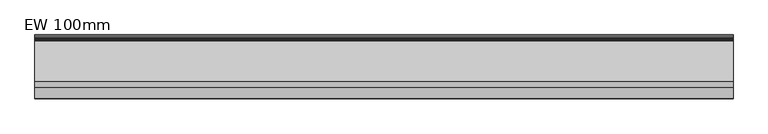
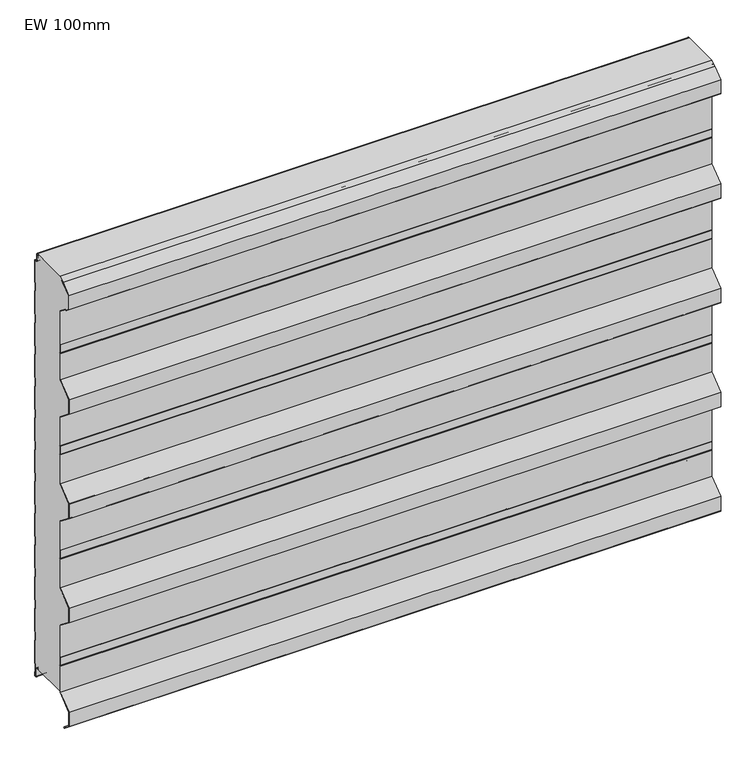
"""IFC4 building model written with IfcOpenShell, lengths in millimetres: plate geometry, KIP-MEX-KC-R19-CP-EW-SL : EW 100mm."""

from ifc_helpers import new_model, si_unit, point, frame, frame_2d, origin, place, context, project, spatial, polyline, circle_curve, trimmed, segment, composite_curve, outline, extrude, source, transform, mapped, element, save
from ifc_brep_helpers import plane_surface, cylinder_surface, revolved_surface, advanced_brep


def ew_100mm_d977de08(model_context):
    return source(origin(), model_context, "Body", "SolidModel", [
        advanced_brep(
        [(-740.0, -110.0327477, 989.051258), (-740.0, -105.6292245, 991.4166419), (-740.0, -106.1011177, 992.2982989), (-740.0, -110.5823669, 989.8911639), (-740.0, -99.7971296, 998.3652789), (-740.0, -11.2514375, 998.3666923), (-740.0, -13.6351997, 996.0840542), (-740.0, -14.1562355, 990.2938452), (-740.0, -13.178913, 990.2059002), (-740.0, -12.6629632, 995.9395891), (-740.0, -10.8760369, 997.3642752), (-740.0, -8.8936988, 995.9342793), (-740.0, -7.4885937, 979.8720443), (-740.0, -4.5000049, 977.1334803), (-740.0, -1.0, 977.1334803), (-740.0, -1.0, 924.1786391), (-740.0, -2.2002307, 922.7930062), (-740.0, -2.2002307, 903.4178399), (-740.0, -1.0, 902.0322069), (-740.0, -1.0, 847.9787915), (-740.0, -2.2002307, 846.5931586), (-740.0, -2.2002307, 827.2179923), (-740.0, -1.0, 825.8323593), (-740.0, -1.0, 771.7789439), (-740.0, -2.2002307, 770.393311), (-740.0, -2.2002307, 751.0181447), (-740.0, -1.0, 749.6325117), (-740.0, -1.0, 695.5790963), (-740.0, -2.2002307, 694.1934634), (-740.0, -2.2002307, 674.8182971), (-740.0, -1.0, 673.4326641), (-740.0, -1.0, 619.3792487), (-740.0, -2.2002307, 617.9936158), (-740.0, -2.2002307, 598.6184495), (-740.0, -1.0, 597.2328165), (-740.0, -1.0, 543.1794011), (-740.0, -2.2002307, 541.7937682), (-740.0, -2.2002307, 522.4186019), (-740.0, -1.0, 521.0329689), (-740.0, -1.0, 466.9795535), (-740.0, -2.2002307, 465.5939206), (-740.0, -2.2002307, 446.2187543), (-740.0, -1.0, 444.8331213), (-740.0, -1.0, 390.7797059), (-740.0, -2.2002307, 389.394073), (-740.0, -2.2002307, 370.0189067), (-740.0, -1.0, 368.6332737), (-740.0, -1.0, 314.5798583), (-740.0, -2.2002307, 313.1942254), (-740.0, -2.2002307, 293.8190591), (-740.0, -1.0, 292.4334261), (-740.0, -1.0, 238.3800107), (-740.0, -2.2002307, 236.9943778), (-740.0, -2.2002307, 217.6192115), (-740.0, -1.0, 216.2335785), (-740.0, -1.0, 162.1801631), (-740.0, -2.2002307, 160.7945302), (-740.0, -2.2002307, 141.4193639), (-740.0, -1.0, 140.0337309), (-740.0, -1.0, 85.9803155), (-740.0, -2.2002307, 84.5946826), (-740.0, -2.2002307, 65.2195163), (-740.0, -1.0, 63.8338833), (-740.0, -1.0, 9.7804679), (-740.0, -2.2002307, 8.394835), (-740.0, -2.2002307, -10.9803313), (-740.0, -0.9999916, -12.365974), (-740.0, -0.9999916, -20.8675386), (-740.0, -2.4999198, -20.8675386), (-740.0, -4.9998241, -18.3676343), (-740.0, -4.9998241, -0.3670493), (-740.0, -7.998082, 2.6333088), (-740.0, -11.5943952, 2.6333088), (-740.0, -13.0725686, 3.8746028), (-740.0, -13.6943971, 7.4169376), (-740.0, -14.6793372, 7.2440392), (-740.0, -14.0575086, 3.7017037), (-740.0, -11.5958694, 1.6333077), (-740.0, -99.0, 1.6333077), (-740.0, -99.0, 62.1559418), (-740.0, -97.9999989, 63.5702249), (-740.0, -97.9999989, 82.7777465), (-740.0, -99.0, 84.1920296), (-740.0, -99.0, 160.6910066), (-740.0, -134.000038, 188.1910365), (-740.0, -134.000038, 222.2190039), (-740.0, -99.0, 249.7190337), (-740.0, -99.0, 319.1871119), (-740.0, -97.9999989, 320.601395), (-740.0, -97.9999989, 339.8089167), (-740.0, -99.0, 341.2231997), (-740.0, -99.0, 410.6912779), (-740.0, -134.000038, 438.1913078), (-740.0, -134.000038, 472.2192752), (-740.0, -99.0, 499.719305), (-740.0, -99.0, 569.1090864), (-740.0, -97.9999989, 570.1732653), (-740.0, -97.9999989, 589.809188), (-740.0, -99.0, 591.2234711), (-740.0, -99.0, 660.6915492), (-740.0, -134.000038, 688.1915791), (-740.0, -134.000038, 722.2195465), (-740.0, -99.0, 749.7195763), (-740.0, -99.0, 812.1567557), (-740.0, -97.9999989, 813.5710388), (-740.0, -97.9999989, 832.7785605), (-740.0, -99.0, 834.1928435), (-740.0, -99.0, 914.6918249), (-740.0, -119.3814311, 930.7058064), (-740.0, -123.199617, 930.7058064), (-740.0, -133.0000369, 938.4061363), (-740.0, -133.0000369, 971.0055308), (740.0, -110.0327477, 989.051258), (740.0, -133.0000369, 971.0055308), (740.0, -133.0000369, 938.4061363), (740.0, -123.199617, 930.7058064), (740.0, -119.3814311, 930.7058064), (740.0, -99.0, 914.6918249), (740.0, -99.0, 834.1928435), (740.0, -97.9999989, 832.7785605), (740.0, -97.9999989, 813.5710388), (740.0, -99.0, 812.1567557), (740.0, -99.0, 749.7195763), (740.0, -134.000038, 722.2195465), (740.0, -134.000038, 688.1915791), (740.0, -99.0, 660.6915492), (740.0, -99.0, 591.2234711), (740.0, -97.9999989, 589.809188), (740.0, -97.9999989, 570.1732653), (740.0, -99.0, 569.1090864), (740.0, -99.0, 499.719305), (740.0, -134.000038, 472.2192752), (740.0, -134.000038, 438.1913078), (740.0, -99.0, 410.6912779), (740.0, -99.0, 341.2231997), (740.0, -97.9999989, 339.8089167), (740.0, -97.9999989, 320.601395), (740.0, -99.0, 319.1871119), (740.0, -99.0, 249.7190337), (740.0, -134.000038, 222.2190039), (740.0, -134.000038, 188.1910365), (740.0, -99.0, 160.6910066), (740.0, -99.0, 84.1920296), (740.0, -97.9999989, 82.7777465), (740.0, -97.9999989, 63.5702249), (740.0, -99.0, 62.1559418), (740.0, -99.0, 1.6333077), (740.0, -11.5958694, 1.6333077), (740.0, -14.0575086, 3.7017037), (740.0, -14.6793372, 7.2440392), (740.0, -13.6943971, 7.4169376), (740.0, -13.0725686, 3.8746028), (740.0, -11.5943952, 2.6333088), (740.0, -7.998082, 2.6333088), (740.0, -4.9998241, -0.3670493), (740.0, -4.9998241, -18.3676343), (740.0, -2.4999198, -20.8675386), (740.0, -0.9999916, -20.8675386), (740.0, -0.9999916, -12.365974), (740.0, -2.2002307, -10.9803313), (740.0, -2.2002307, 8.394835), (740.0, -1.0, 9.7804679), (740.0, -1.0, 63.8338833), (740.0, -2.2002307, 65.2195163), (740.0, -2.2002307, 84.5946826), (740.0, -1.0, 85.9803155), (740.0, -1.0, 140.0337309), (740.0, -2.2002307, 141.4193639), (740.0, -2.2002307, 160.7945302), (740.0, -1.0, 162.1801631), (740.0, -1.0, 216.2335785), (740.0, -2.2002307, 217.6192115), (740.0, -2.2002307, 236.9943778), (740.0, -1.0, 238.3800107), (740.0, -1.0, 292.4334261), (740.0, -2.2002307, 293.8190591), (740.0, -2.2002307, 313.1942254), (740.0, -1.0, 314.5798583), (740.0, -1.0, 368.6332737), (740.0, -2.2002307, 370.0189067), (740.0, -2.2002307, 389.394073), (740.0, -1.0, 390.7797059), (740.0, -1.0, 444.8331213), (740.0, -2.2002307, 446.2187543), (740.0, -2.2002307, 465.5939206), (740.0, -1.0, 466.9795535), (740.0, -1.0, 521.0329689), (740.0, -2.2002307, 522.4186019), (740.0, -2.2002307, 541.7937682), (740.0, -1.0, 543.1794011), (740.0, -1.0, 597.2328165), (740.0, -2.2002307, 598.6184495), (740.0, -2.2002307, 617.9936158), (740.0, -1.0, 619.3792487), (740.0, -1.0, 673.4326641), (740.0, -2.2002307, 674.8182971), (740.0, -2.2002307, 694.1934634), (740.0, -1.0, 695.5790963), (740.0, -1.0, 749.6325117), (740.0, -2.2002307, 751.0181447), (740.0, -2.2002307, 770.393311), (740.0, -1.0, 771.7789439), (740.0, -1.0, 825.8323593), (740.0, -2.2002307, 827.2179923), (740.0, -2.2002307, 846.5931586), (740.0, -1.0, 847.9787915), (740.0, -1.0, 902.0322069), (740.0, -2.2002307, 903.4178399), (740.0, -2.2002307, 922.7930062), (740.0, -1.0, 924.1786391), (740.0, -1.0, 977.1334803), (740.0, -4.5000049, 977.1334803), (740.0, -7.4885937, 979.8720443), (740.0, -8.8936988, 995.9342793), (740.0, -10.8760369, 997.3642752), (740.0, -12.6629632, 995.9395891), (740.0, -13.178913, 990.2059002), (740.0, -14.1562355, 990.2938452), (740.0, -13.6351997, 996.0840542), (740.0, -11.2514375, 998.3666923), (740.0, -99.7971296, 998.3652789), (740.0, -110.5823669, 989.8911639), (740.0, -106.1011177, 992.2982989), (740.0, -105.6292245, 991.4166419)],
        [
            (0, 1),
            (1, 2),
            (2, 3),
            (3, 4),
            (4, 5),
            (5, 6, circle_curve(frame((-740.0, -10.8441969, 995.5554081), z_axis=(1.0, 0.0, 0.0), x_axis=(0.0, -1.0, 0.0)), 2.8406273)),
            (6, 7),
            (7, 8),
            (8, 9),
            (9, 10, circle_curve(frame((-740.0, -10.8991179, 995.560247), z_axis=(-1.0, 0.0, 0.0), x_axis=(0.0, -1.0, 0.0)), 1.8041759)),
            (10, 11, circle_curve(frame((-740.0, -10.6928483, 995.5292107), z_axis=(-1.0, 0.0, 0.0), x_axis=(0.0, -1.0, 0.0)), 1.8441854)),
            (11, 12),
            (12, 13, circle_curve(frame((-740.0, -4.5000049, 980.1334825), z_axis=(1.0, 0.0, 0.0), x_axis=(0.0, -1.0, 0.0)), 3.0000022)),
            (13, 14),
            (14, 15),
            (15, 16),
            (16, 17),
            (17, 18),
            (18, 19),
            (19, 20),
            (20, 21),
            (21, 22),
            (22, 23),
            (23, 24),
            (24, 25),
            (25, 26),
            (26, 27),
            (27, 28),
            (28, 29),
            (29, 30),
            (30, 31),
            (31, 32),
            (32, 33),
            (33, 34),
            (34, 35),
            (35, 36),
            (36, 37),
            (37, 38),
            (38, 39),
            (39, 40),
            (40, 41),
            (41, 42),
            (42, 43),
            (43, 44),
            (44, 45),
            (45, 46),
            (46, 47),
            (47, 48),
            (48, 49),
            (49, 50),
            (50, 51),
            (51, 52),
            (52, 53),
            (53, 54),
            (54, 55),
            (55, 56),
            (56, 57),
            (57, 58),
            (58, 59),
            (59, 60),
            (60, 61),
            (61, 62),
            (62, 63),
            (63, 64),
            (64, 65),
            (65, 66),
            (66, 67),
            (67, 68),
            (68, 69, circle_curve(frame((-740.0, -2.4999198, -18.3676343), z_axis=(-1.0, 0.0, 0.0), x_axis=(0.0, -1.0, 0.0)), 2.4999043)),
            (69, 70),
            (70, 71, circle_curve(frame((-740.0, -8.0001829, -0.3670493), z_axis=(1.0, 0.0, 0.0), x_axis=(0.0, -1.0, 0.0)), 3.0003589)),
            (71, 72),
            (72, 73, circle_curve(frame((-740.0, -11.5943952, 4.1340843), z_axis=(-1.0, 0.0, 0.0), x_axis=(0.0, -1.0, 0.0)), 1.5007755)),
            (73, 74),
            (74, 75),
            (75, 76),
            (76, 77, circle_curve(frame((-740.0, -11.5943948, 4.1340836), z_axis=(1.0, 0.0, 0.0), x_axis=(0.0, -1.0, 0.0)), 2.5007762)),
            (77, 78),
            (78, 79),
            (79, 80),
            (80, 81),
            (81, 82),
            (82, 83),
            (83, 84),
            (84, 85),
            (85, 86),
            (86, 87),
            (87, 88),
            (88, 89),
            (89, 90),
            (90, 91),
            (91, 92),
            (92, 93),
            (93, 94),
            (94, 95),
            (95, 96),
            (96, 97),
            (97, 98),
            (98, 99),
            (99, 100),
            (100, 101),
            (101, 102),
            (102, 103),
            (103, 104),
            (104, 105),
            (105, 106),
            (106, 107),
            (107, 108),
            (108, 109),
            (109, 110),
            (110, 111),
            (111, 0),
            (112, 113),
            (113, 114),
            (114, 115),
            (115, 116),
            (116, 117),
            (117, 118),
            (118, 119),
            (119, 120),
            (120, 121),
            (121, 122),
            (122, 123),
            (123, 124),
            (124, 125),
            (125, 126),
            (126, 127),
            (127, 128),
            (128, 129),
            (129, 130),
            (130, 131),
            (131, 132),
            (132, 133),
            (133, 134),
            (134, 135),
            (135, 136),
            (136, 137),
            (137, 138),
            (138, 139),
            (139, 140),
            (140, 141),
            (141, 142),
            (142, 143),
            (143, 144),
            (144, 145),
            (145, 146),
            (146, 147),
            (147, 148, circle_curve(frame((740.0, -11.5943948, 4.1340836), z_axis=(-1.0, 0.0, 0.0), x_axis=(0.0, -1.0, 0.0)), 2.5007762)),
            (148, 149),
            (149, 150),
            (150, 151),
            (151, 152, circle_curve(frame((740.0, -11.5943952, 4.1340843), z_axis=(1.0, 0.0, 0.0), x_axis=(0.0, -1.0, 0.0)), 1.5007755)),
            (152, 153),
            (153, 154, circle_curve(frame((740.0, -8.0001829, -0.3670493), z_axis=(-1.0, 0.0, 0.0), x_axis=(0.0, -1.0, 0.0)), 3.0003589)),
            (154, 155),
            (155, 156, circle_curve(frame((740.0, -2.4999198, -18.3676343), z_axis=(1.0, 0.0, 0.0), x_axis=(0.0, -1.0, 0.0)), 2.4999043)),
            (156, 157),
            (157, 158),
            (158, 159),
            (159, 160),
            (160, 161),
            (161, 162),
            (162, 163),
            (163, 164),
            (164, 165),
            (165, 166),
            (166, 167),
            (167, 168),
            (168, 169),
            (169, 170),
            (170, 171),
            (171, 172),
            (172, 173),
            (173, 174),
            (174, 175),
            (175, 176),
            (176, 177),
            (177, 178),
            (178, 179),
            (179, 180),
            (180, 181),
            (181, 182),
            (182, 183),
            (183, 184),
            (184, 185),
            (185, 186),
            (186, 187),
            (187, 188),
            (188, 189),
            (189, 190),
            (190, 191),
            (191, 192),
            (192, 193),
            (193, 194),
            (194, 195),
            (195, 196),
            (196, 197),
            (197, 198),
            (198, 199),
            (199, 200),
            (200, 201),
            (201, 202),
            (202, 203),
            (203, 204),
            (204, 205),
            (205, 206),
            (206, 207),
            (207, 208),
            (208, 209),
            (209, 210),
            (210, 211),
            (211, 212, circle_curve(frame((740.0, -4.5000049, 980.1334825), z_axis=(-1.0, 0.0, 0.0), x_axis=(0.0, -1.0, 0.0)), 3.0000022)),
            (212, 213),
            (213, 214, circle_curve(frame((740.0, -10.6928483, 995.5292107), z_axis=(1.0, 0.0, 0.0), x_axis=(0.0, -1.0, 0.0)), 1.8441854)),
            (214, 215, circle_curve(frame((740.0, -10.8991179, 995.560247), z_axis=(1.0, 0.0, 0.0), x_axis=(0.0, -1.0, 0.0)), 1.8041759)),
            (215, 216),
            (216, 217),
            (217, 218),
            (218, 219, circle_curve(frame((740.0, -10.8441969, 995.5554081), z_axis=(-1.0, 0.0, 0.0), x_axis=(0.0, -1.0, 0.0)), 2.8406273)),
            (219, 220),
            (220, 221),
            (221, 222),
            (222, 223),
            (223, 112),
            (0, 112),
            (223, 1),
            (111, 113),
            (110, 114),
            (109, 115),
            (108, 116),
            (107, 117),
            (106, 118),
            (105, 119),
            (104, 120),
            (103, 121),
            (102, 122),
            (101, 123),
            (100, 124),
            (99, 125),
            (98, 126),
            (97, 127),
            (96, 128),
            (95, 129),
            (94, 130),
            (93, 131),
            (92, 132),
            (91, 133),
            (90, 134),
            (89, 135),
            (88, 136),
            (87, 137),
            (86, 138),
            (85, 139),
            (84, 140),
            (83, 141),
            (82, 142),
            (81, 143),
            (80, 144),
            (79, 145),
            (78, 146),
            (2, 222),
            (221, 3),
            (220, 4),
            (219, 5),
            (77, 147),
            (73, 151),
            (150, 74),
            (72, 152),
            (71, 153),
            (70, 154),
            (69, 155),
            (68, 156),
            (67, 157),
            (13, 211),
            (210, 14),
            (12, 212),
            (11, 213),
            (10, 214),
            (9, 215),
            (8, 216),
            (7, 217),
            (6, 218),
            (76, 148),
            (75, 149),
            (66, 158),
            (65, 159),
            (64, 160),
            (63, 161),
            (62, 162),
            (61, 163),
            (60, 164),
            (59, 165),
            (58, 166),
            (57, 167),
            (56, 168),
            (55, 169),
            (54, 170),
            (53, 171),
            (52, 172),
            (51, 173),
            (50, 174),
            (49, 175),
            (48, 176),
            (47, 177),
            (46, 178),
            (45, 179),
            (44, 180),
            (43, 181),
            (42, 182),
            (41, 183),
            (40, 184),
            (39, 185),
            (38, 186),
            (37, 187),
            (36, 188),
            (35, 189),
            (34, 190),
            (33, 191),
            (32, 192),
            (31, 193),
            (30, 194),
            (29, 195),
            (28, 196),
            (27, 197),
            (26, 198),
            (25, 199),
            (24, 200),
            (23, 201),
            (22, 202),
            (21, 203),
            (20, 204),
            (19, 205),
            (18, 206),
            (17, 207),
            (16, 208),
            (15, 209),
        ],
        [
            plane_surface(frame((-740.0, -99.0, 500.0), z_axis=(-1.0, 0.0, 0.0), x_axis=(0.0, -1.0, 0.0))),
            plane_surface(frame((740.0, -99.0, 500.0), z_axis=(1.0, 0.0, 0.0), x_axis=(0.0, -1.0, 0.0))),
            plane_surface(frame((-740.0, -105.6292245, 991.4166419), z_axis=(0.0, -0.4732087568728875, 0.8809503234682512), x_axis=(1.0, 0.0, 0.0))),
            plane_surface(frame((-740.0, -110.0327477, 989.051258), z_axis=(0.0, -0.6178215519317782, 0.7863183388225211), x_axis=(1.0, 0.0, 0.0))),
            plane_surface(frame((-740.0, -133.0000369, 971.0055308), z_axis=(0.0, -1.0, 0.0), x_axis=(1.0, 0.0, 0.0))),
            plane_surface(frame((-740.0, -133.0000369, 938.4061363), z_axis=(0.0, -0.6178215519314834, -0.7863183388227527), x_axis=(1.0, 0.0, 0.0))),
            plane_surface(frame((-740.0, -123.199617, 930.7058064), z_axis=(0.0, 0.0, -1.0), x_axis=(1.0, 0.0, 0.0))),
            plane_surface(frame((-740.0, -119.3814311, 930.7058064), z_axis=(0.0, -0.6178215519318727, -0.786318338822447), x_axis=(1.0, 0.0, 0.0))),
            plane_surface(frame((-740.0, -99.0, 914.6918249), z_axis=(0.0, -1.0, 0.0), x_axis=(1.0, 0.0, 0.0))),
            plane_surface(frame((-740.0, -99.0, 834.1928435), z_axis=(0.0, -0.8165096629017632, -0.577331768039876), x_axis=(1.0, 0.0, 0.0))),
            plane_surface(frame((-740.0, -97.9999989, 832.7785605), z_axis=(0.0, -1.0, 0.0), x_axis=(1.0, 0.0, 0.0))),
            plane_surface(frame((-740.0, -97.9999989, 813.5710388), z_axis=(0.0, -0.816509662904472, 0.5773317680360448), x_axis=(1.0, 0.0, 0.0))),
            plane_surface(frame((-740.0, -99.0, 812.1567557), z_axis=(0.0, -1.0, 0.0), x_axis=(1.0, 0.0, 0.0))),
            plane_surface(frame((-740.0, -99.0, 749.7195763), z_axis=(0.0, -0.6178215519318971, 0.7863183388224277), x_axis=(1.0, 0.0, 0.0))),
            plane_surface(frame((-740.0, -134.000038, 722.2195465), z_axis=(0.0, -1.0, 0.0), x_axis=(1.0, 0.0, 0.0))),
            plane_surface(frame((-740.0, -134.000038, 688.1915791), z_axis=(0.0, -0.6178215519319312, -0.7863183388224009), x_axis=(1.0, 0.0, 0.0))),
            plane_surface(frame((-740.0, -99.0, 660.6915492), z_axis=(0.0, -1.0, 0.0), x_axis=(1.0, 0.0, 0.0))),
            plane_surface(frame((-740.0, -99.0, 591.2234711), z_axis=(0.0, -0.8165096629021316, -0.577331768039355), x_axis=(1.0, 0.0, 0.0))),
            plane_surface(frame((-740.0, -97.9999989, 589.809188), z_axis=(0.0, -1.0, 0.0), x_axis=(1.0, 0.0, 0.0))),
            plane_surface(frame((-740.0, -97.9999989, 570.1732653), z_axis=(0.0, -0.7287394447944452, 0.6847910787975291), x_axis=(1.0, 0.0, 0.0))),
            plane_surface(frame((-740.0, -99.0, 569.1090864), z_axis=(0.0, -1.0, 0.0), x_axis=(1.0, 0.0, 0.0))),
            plane_surface(frame((-740.0, -99.0, 499.719305), z_axis=(0.0, -0.6178215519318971, 0.7863183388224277), x_axis=(1.0, 0.0, 0.0))),
            plane_surface(frame((-740.0, -134.000038, 472.2192752), z_axis=(0.0, -1.0, 0.0), x_axis=(1.0, 0.0, 0.0))),
            plane_surface(frame((-740.0, -134.000038, 438.1913078), z_axis=(0.0, -0.6178215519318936, -0.7863183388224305), x_axis=(1.0, 0.0, 0.0))),
            plane_surface(frame((-740.0, -99.0, 410.6912779), z_axis=(0.0, -1.0, 0.0), x_axis=(1.0, 0.0, 0.0))),
            plane_surface(frame((-740.0, -99.0, 341.2231997), z_axis=(0.0, -0.8165096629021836, -0.5773317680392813), x_axis=(1.0, 0.0, 0.0))),
            plane_surface(frame((-740.0, -97.9999989, 339.8089167), z_axis=(0.0, -1.0, 0.0), x_axis=(1.0, 0.0, 0.0))),
            plane_surface(frame((-740.0, -97.9999989, 320.601395), z_axis=(0.0, -0.8165096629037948, 0.5773317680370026), x_axis=(1.0, 0.0, 0.0))),
            plane_surface(frame((-740.0, -99.0, 319.1871119), z_axis=(0.0, -1.0, 0.0), x_axis=(1.0, 0.0, 0.0))),
            plane_surface(frame((-740.0, -99.0, 249.7190337), z_axis=(0.0, -0.6178215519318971, 0.7863183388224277), x_axis=(1.0, 0.0, 0.0))),
            plane_surface(frame((-740.0, -134.000038, 222.2190039), z_axis=(0.0, -1.0, 0.0), x_axis=(1.0, 0.0, 0.0))),
            plane_surface(frame((-740.0, -134.000038, 188.1910365), z_axis=(0.0, -0.6178215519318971, -0.7863183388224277), x_axis=(1.0, 0.0, 0.0))),
            plane_surface(frame((-740.0, -99.0, 160.6910066), z_axis=(0.0, -1.0, 0.0), x_axis=(1.0, 0.0, 0.0))),
            plane_surface(frame((-740.0, -99.0, 84.1920296), z_axis=(0.0, -0.8165096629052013, -0.5773317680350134), x_axis=(1.0, 0.0, 0.0))),
            plane_surface(frame((-740.0, -97.9999989, 82.7777465), z_axis=(0.0, -1.0, 0.0), x_axis=(1.0, 0.0, 0.0))),
            plane_surface(frame((-740.0, -97.9999989, 63.5702249), z_axis=(0.0, -0.8165096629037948, 0.5773317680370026), x_axis=(1.0, 0.0, 0.0))),
            plane_surface(frame((-740.0, -99.0, 62.1559418), z_axis=(0.0, -1.0, 0.0), x_axis=(1.0, 0.0, 0.0))),
            plane_surface(frame((-740.0, -110.5823669, 989.8911639), z_axis=(0.0, 0.47320875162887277, -0.8809503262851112), x_axis=(1.0, 0.0, 0.0))),
            plane_surface(frame((-740.0, -106.1011177, 992.2982989), z_axis=(0.0, -0.8816559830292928, -0.47189270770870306), x_axis=(1.0, 0.0, 0.0))),
            plane_surface(frame((-740.0, -99.7971296, 998.3652789), z_axis=(0.0, -0.617821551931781, 0.786318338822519), x_axis=(1.0, 0.0, 0.0))),
            plane_surface(frame((-740.0, -94.8065083, 998.3652789), z_axis=(0.0, 0.0, 1.0), x_axis=(1.0, 0.0, 0.0))),
            plane_surface(frame((-740.0, -99.0, 1.6333077), z_axis=(0.0, 0.0, -1.0), x_axis=(1.0, 0.0, 0.0))),
            plane_surface(frame((-740.0, -13.6943971, 7.4169376), z_axis=(0.0, -0.9849396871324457, -0.17289827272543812), x_axis=(1.0, 0.0, 0.0))),
            cylinder_surface(frame((-740.0, -11.5943952, 4.1340843), z_axis=(-1.0, 0.0, 0.0), x_axis=(0.0, -1.0, 0.0)), 1.5007755),
            plane_surface(frame((-740.0, -11.5943952, 2.6333088), z_axis=(0.0, 0.0, -1.0), x_axis=(1.0, 0.0, 0.0))),
            revolved_surface(polyline([(740.0, -11.0005418, -0.3670493), (-740.0, -11.0005418, -0.3670493)]), (-740.0, -8.0001829, -0.3670493), (1.0, 0.0, 0.0)),
            plane_surface(frame((-740.0, -4.9998241, -0.3670493), z_axis=(0.0, -1.0, 0.0), x_axis=(1.0, 0.0, 0.0))),
            cylinder_surface(frame((-740.0, -2.4999198, -18.3676343), z_axis=(-1.0, 0.0, 0.0), x_axis=(0.0, -1.0, 0.0)), 2.4999043),
            plane_surface(frame((-740.0, -2.4999198, -20.8675386), z_axis=(0.0, 0.0, -1.0), x_axis=(1.0, 0.0, 0.0))),
            plane_surface(frame((-740.0, -1.0, 977.1334803), z_axis=(0.0, 0.0, 1.0), x_axis=(1.0, 0.0, 0.0))),
            revolved_surface(polyline([(740.0, -7.5000071, 980.1334825), (-740.0, -7.5000071, 980.1334825)]), (-740.0, -4.5000049, 980.1334825), (1.0, 0.0, 0.0)),
            plane_surface(frame((-740.0, -7.4885937, 979.8720443), z_axis=(0.0, 0.9961955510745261, 0.08714599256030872), x_axis=(1.0, 0.0, 0.0))),
            cylinder_surface(frame((-740.0, -10.6928483, 995.5292107), z_axis=(-1.0, 0.0, 0.0), x_axis=(0.0, -1.0, 0.0)), 1.8441854),
            cylinder_surface(frame((-740.0, -10.8991179, 995.560247), z_axis=(-1.0, 0.0, 0.0), x_axis=(0.0, -1.0, 0.0)), 1.8041759),
            plane_surface(frame((-740.0, -12.6629632, 995.9395891), z_axis=(0.0, -0.9959757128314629, 0.08962354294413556), x_axis=(1.0, 0.0, 0.0))),
            plane_surface(frame((-740.0, -13.178913, 990.2059002), z_axis=(0.0, 0.0896235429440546, 0.9959757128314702), x_axis=(1.0, 0.0, 0.0))),
            plane_surface(frame((-740.0, -14.1562355, 990.2938452), z_axis=(0.0, 0.9959757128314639, -0.08962354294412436), x_axis=(1.0, 0.0, 0.0))),
            revolved_surface(polyline([(740.0, -13.6848242, 995.5554081), (-740.0, -13.6848242, 995.5554081)]), (-740.0, -10.8441969, 995.5554081), (1.0, 0.0, 0.0)),
            revolved_surface(polyline([(740.0, -14.095171, 4.1340836), (-740.0, -14.095171, 4.1340836)]), (-740.0, -11.5943948, 4.1340836), (1.0, 0.0, 0.0)),
            plane_surface(frame((-740.0, -14.0575086, 3.7017037), z_axis=(0.0, 0.9849396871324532, 0.17289827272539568), x_axis=(1.0, 0.0, 0.0))),
            plane_surface(frame((-740.0, -14.6793372, 7.2440392), z_axis=(0.0, 0.17289827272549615, -0.9849396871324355), x_axis=(1.0, 0.0, 0.0))),
            plane_surface(frame((-740.0, -0.9999916, -20.8675386), z_axis=(0.0, 1.0, 0.0), x_axis=(1.0, 0.0, 0.0))),
            plane_surface(frame((-740.0, -0.9999916, -12.365974), z_axis=(0.0, 0.7558648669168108, 0.6547276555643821), x_axis=(1.0, 0.0, 0.0))),
            plane_surface(frame((-740.0, -2.2002307, -10.9803313), z_axis=(0.0, 1.0, 0.0), x_axis=(1.0, 0.0, 0.0))),
            plane_surface(frame((-740.0, -2.2002307, 8.394835), z_axis=(0.0, 0.7558648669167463, -0.6547276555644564), x_axis=(1.0, 0.0, 0.0))),
            plane_surface(frame((-740.0, -1.0, 9.7804679), z_axis=(0.0, 1.0, 0.0), x_axis=(1.0, 0.0, 0.0))),
            plane_surface(frame((-740.0, -1.0, 63.8338833), z_axis=(0.0, 0.7558648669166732, 0.6547276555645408), x_axis=(1.0, 0.0, 0.0))),
            plane_surface(frame((-740.0, -2.2002307, 65.2195163), z_axis=(0.0, 1.0, 0.0), x_axis=(1.0, 0.0, 0.0))),
            plane_surface(frame((-740.0, -2.2002307, 84.5946826), z_axis=(0.0, 0.7558648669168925, -0.6547276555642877), x_axis=(1.0, 0.0, 0.0))),
            plane_surface(frame((-740.0, -1.0, 85.9803155), z_axis=(0.0, 1.0, 0.0), x_axis=(1.0, 0.0, 0.0))),
            plane_surface(frame((-740.0, -1.0, 140.0337309), z_axis=(0.0, 0.7558648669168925, 0.6547276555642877), x_axis=(1.0, 0.0, 0.0))),
            plane_surface(frame((-740.0, -2.2002307, 141.4193639), z_axis=(0.0, 1.0, 0.0), x_axis=(1.0, 0.0, 0.0))),
            plane_surface(frame((-740.0, -2.2002307, 160.7945302), z_axis=(0.0, 0.7558648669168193, -0.6547276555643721), x_axis=(1.0, 0.0, 0.0))),
            plane_surface(frame((-740.0, -1.0, 162.1801631), z_axis=(0.0, 1.0, 0.0), x_axis=(1.0, 0.0, 0.0))),
            plane_surface(frame((-740.0, -1.0, 216.2335785), z_axis=(0.0, 0.7558648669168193, 0.6547276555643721), x_axis=(1.0, 0.0, 0.0))),
            plane_surface(frame((-740.0, -2.2002307, 217.6192115), z_axis=(0.0, 1.0, 0.0), x_axis=(1.0, 0.0, 0.0))),
            plane_surface(frame((-740.0, -2.2002307, 236.9943778), z_axis=(0.0, 0.7558648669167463, -0.6547276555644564), x_axis=(1.0, 0.0, 0.0))),
            plane_surface(frame((-740.0, -1.0, 238.3800107), z_axis=(0.0, 1.0, 0.0), x_axis=(1.0, 0.0, 0.0))),
            plane_surface(frame((-740.0, -1.0, 292.4334261), z_axis=(0.0, 0.7558648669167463, 0.6547276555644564), x_axis=(1.0, 0.0, 0.0))),
            plane_surface(frame((-740.0, -2.2002307, 293.8190591), z_axis=(0.0, 1.0, 0.0), x_axis=(1.0, 0.0, 0.0))),
            plane_surface(frame((-740.0, -2.2002307, 313.1942254), z_axis=(0.0, 0.7558648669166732, -0.6547276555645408), x_axis=(1.0, 0.0, 0.0))),
            plane_surface(frame((-740.0, -1.0, 314.5798583), z_axis=(0.0, 1.0, 0.0), x_axis=(1.0, 0.0, 0.0))),
            plane_surface(frame((-740.0, -1.0, 368.6332737), z_axis=(0.0, 0.7558648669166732, 0.6547276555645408), x_axis=(1.0, 0.0, 0.0))),
            plane_surface(frame((-740.0, -2.2002307, 370.0189067), z_axis=(0.0, 1.0, 0.0), x_axis=(1.0, 0.0, 0.0))),
            plane_surface(frame((-740.0, -2.2002307, 389.394073), z_axis=(0.0, 0.755864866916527, -0.6547276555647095), x_axis=(1.0, 0.0, 0.0))),
            plane_surface(frame((-740.0, -1.0, 390.7797059), z_axis=(0.0, 1.0, 0.0), x_axis=(1.0, 0.0, 0.0))),
            plane_surface(frame((-740.0, -1.0, 444.8331213), z_axis=(0.0, 0.755864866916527, 0.6547276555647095), x_axis=(1.0, 0.0, 0.0))),
            plane_surface(frame((-740.0, -2.2002307, 446.2187543), z_axis=(0.0, 1.0, 0.0), x_axis=(1.0, 0.0, 0.0))),
            plane_surface(frame((-740.0, -2.2002307, 465.5939206), z_axis=(0.0, 0.755864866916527, -0.6547276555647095), x_axis=(1.0, 0.0, 0.0))),
            plane_surface(frame((-740.0, -1.0, 466.9795535), z_axis=(0.0, 1.0, 0.0), x_axis=(1.0, 0.0, 0.0))),
            plane_surface(frame((-740.0, -1.0, 521.0329689), z_axis=(0.0, 0.755864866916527, 0.6547276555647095), x_axis=(1.0, 0.0, 0.0))),
            plane_surface(frame((-740.0, -2.2002307, 522.4186019), z_axis=(0.0, 1.0, 0.0), x_axis=(1.0, 0.0, 0.0))),
            plane_surface(frame((-740.0, -2.2002307, 541.7937682), z_axis=(0.0, 0.7558648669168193, -0.6547276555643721), x_axis=(1.0, 0.0, 0.0))),
            plane_surface(frame((-740.0, -1.0, 543.1794011), z_axis=(0.0, 1.0, 0.0), x_axis=(1.0, 0.0, 0.0))),
            plane_surface(frame((-740.0, -1.0, 597.2328165), z_axis=(0.0, 0.7558648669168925, 0.6547276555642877), x_axis=(1.0, 0.0, 0.0))),
            plane_surface(frame((-740.0, -2.2002307, 598.6184495), z_axis=(0.0, 1.0, 0.0), x_axis=(1.0, 0.0, 0.0))),
            plane_surface(frame((-740.0, -2.2002307, 617.9936158), z_axis=(0.0, 0.7558648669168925, -0.6547276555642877), x_axis=(1.0, 0.0, 0.0))),
            plane_surface(frame((-740.0, -1.0, 619.3792487), z_axis=(0.0, 1.0, 0.0), x_axis=(1.0, 0.0, 0.0))),
            plane_surface(frame((-740.0, -1.0, 673.4326641), z_axis=(0.0, 0.7558648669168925, 0.6547276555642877), x_axis=(1.0, 0.0, 0.0))),
            plane_surface(frame((-740.0, -2.2002307, 674.8182971), z_axis=(0.0, 1.0, 0.0), x_axis=(1.0, 0.0, 0.0))),
            plane_surface(frame((-740.0, -2.2002307, 694.1934634), z_axis=(0.0, 0.7558648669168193, -0.6547276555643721), x_axis=(1.0, 0.0, 0.0))),
            plane_surface(frame((-740.0, -1.0, 695.5790963), z_axis=(0.0, 1.0, 0.0), x_axis=(1.0, 0.0, 0.0))),
            plane_surface(frame((-740.0, -1.0, 749.6325117), z_axis=(0.0, 0.7558648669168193, 0.6547276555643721), x_axis=(1.0, 0.0, 0.0))),
            plane_surface(frame((-740.0, -2.2002307, 751.0181447), z_axis=(0.0, 1.0, 0.0), x_axis=(1.0, 0.0, 0.0))),
            plane_surface(frame((-740.0, -2.2002307, 770.393311), z_axis=(0.0, 0.7558648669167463, -0.6547276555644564), x_axis=(1.0, 0.0, 0.0))),
            plane_surface(frame((-740.0, -1.0, 771.7789439), z_axis=(0.0, 1.0, 0.0), x_axis=(1.0, 0.0, 0.0))),
            plane_surface(frame((-740.0, -1.0, 825.8323593), z_axis=(0.0, 0.7558648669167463, 0.6547276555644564), x_axis=(1.0, 0.0, 0.0))),
            plane_surface(frame((-740.0, -2.2002307, 827.2179923), z_axis=(0.0, 1.0, 0.0), x_axis=(1.0, 0.0, 0.0))),
            plane_surface(frame((-740.0, -2.2002307, 846.5931586), z_axis=(0.0, 0.7558648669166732, -0.6547276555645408), x_axis=(1.0, 0.0, 0.0))),
            plane_surface(frame((-740.0, -1.0, 847.9787915), z_axis=(0.0, 1.0, 0.0), x_axis=(1.0, 0.0, 0.0))),
            plane_surface(frame((-740.0, -1.0, 902.0322069), z_axis=(0.0, 0.7558648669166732, 0.6547276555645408), x_axis=(1.0, 0.0, 0.0))),
            plane_surface(frame((-740.0, -2.2002307, 903.4178399), z_axis=(0.0, 1.0, 0.0), x_axis=(1.0, 0.0, 0.0))),
            plane_surface(frame((-740.0, -2.2002307, 922.7930062), z_axis=(0.0, 0.7558648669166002, -0.6547276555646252), x_axis=(1.0, 0.0, 0.0))),
            plane_surface(frame((-740.0, -1.0, 924.1786391), z_axis=(0.0, 1.0, 0.0), x_axis=(1.0, 0.0, 0.0))),
        ],
        [
            (0, [[1, 2, 3, 4, 5, 6, 7, 8, 9, 10, 11, 12, 13, 14, 15, 16, 17, 18, 19, 20, 21, 22, 23, 24, 25, 26, 27, 28, 29, 30, 31, 32, 33, 34, 35, 36, 37, 38, 39, 40, 41, 42, 43, 44, 45, 46, 47, 48, 49, 50, 51, 52, 53, 54, 55, 56, 57, 58, 59, 60, 61, 62, 63, 64, 65, 66, 67, 68, 69, 70, 71, 72, 73, 74, 75, 76, 77, 78, 79, 80, 81, 82, 83, 84, 85, 86, 87, 88, 89, 90, 91, 92, 93, 94, 95, 96, 97, 98, 99, 100, 101, 102, 103, 104, 105, 106, 107, 108, 109, 110, 111, 112]]),
            (1, [[113, 114, 115, 116, 117, 118, 119, 120, 121, 122, 123, 124, 125, 126, 127, 128, 129, 130, 131, 132, 133, 134, 135, 136, 137, 138, 139, 140, 141, 142, 143, 144, 145, 146, 147, 148, 149, 150, 151, 152, 153, 154, 155, 156, 157, 158, 159, 160, 161, 162, 163, 164, 165, 166, 167, 168, 169, 170, 171, 172, 173, 174, 175, 176, 177, 178, 179, 180, 181, 182, 183, 184, 185, 186, 187, 188, 189, 190, 191, 192, 193, 194, 195, 196, 197, 198, 199, 200, 201, 202, 203, 204, 205, 206, 207, 208, 209, 210, 211, 212, 213, 214, 215, 216, 217, 218, 219, 220, 221, 222, 223, 224]]),
            (2, [[225, -224, 226, -1]]),
            (3, [[227, -113, -225, -112]]),
            (4, [[228, -114, -227, -111]]),
            (5, [[229, -115, -228, -110]]),
            (6, [[230, -116, -229, -109]]),
            (7, [[231, -117, -230, -108]]),
            (8, [[232, -118, -231, -107]]),
            (9, [[233, -119, -232, -106]]),
            (10, [[234, -120, -233, -105]]),
            (11, [[235, -121, -234, -104]]),
            (12, [[236, -122, -235, -103]]),
            (13, [[237, -123, -236, -102]]),
            (14, [[238, -124, -237, -101]]),
            (15, [[239, -125, -238, -100]]),
            (16, [[240, -126, -239, -99]]),
            (17, [[241, -127, -240, -98]]),
            (18, [[242, -128, -241, -97]]),
            (19, [[243, -129, -242, -96]]),
            (20, [[244, -130, -243, -95]]),
            (21, [[245, -131, -244, -94]]),
            (22, [[246, -132, -245, -93]]),
            (23, [[247, -133, -246, -92]]),
            (24, [[248, -134, -247, -91]]),
            (25, [[249, -135, -248, -90]]),
            (26, [[250, -136, -249, -89]]),
            (27, [[251, -137, -250, -88]]),
            (28, [[252, -138, -251, -87]]),
            (29, [[253, -139, -252, -86]]),
            (30, [[254, -140, -253, -85]]),
            (31, [[255, -141, -254, -84]]),
            (32, [[256, -142, -255, -83]]),
            (33, [[257, -143, -256, -82]]),
            (34, [[258, -144, -257, -81]]),
            (35, [[259, -145, -258, -80]]),
            (36, [[260, -146, -259, -79]]),
            (37, [[261, -222, 262, -3]]),
            (38, [[-226, -223, -261, -2]]),
            (39, [[-262, -221, 263, -4]]),
            (40, [[-263, -220, 264, -5]]),
            (41, [[265, -147, -260, -78]]),
            (42, [[266, -151, 267, -74]]),
            (43, [[268, -152, -266, -73]]),
            (44, [[269, -153, -268, -72]]),
            (45, [[270, -154, -269, -71]]),
            (46, [[271, -155, -270, -70]]),
            (47, [[272, -156, -271, -69]]),
            (48, [[273, -157, -272, -68]]),
            (49, [[274, -211, 275, -14]]),
            (50, [[276, -212, -274, -13]]),
            (51, [[277, -213, -276, -12]]),
            (52, [[278, -214, -277, -11]]),
            (53, [[279, -215, -278, -10]]),
            (54, [[280, -216, -279, -9]]),
            (55, [[281, -217, -280, -8]]),
            (56, [[282, -218, -281, -7]]),
            (57, [[-264, -219, -282, -6]]),
            (58, [[283, -148, -265, -77]]),
            (59, [[284, -149, -283, -76]]),
            (60, [[-267, -150, -284, -75]]),
            (61, [[285, -158, -273, -67]]),
            (62, [[286, -159, -285, -66]]),
            (63, [[287, -160, -286, -65]]),
            (64, [[288, -161, -287, -64]]),
            (65, [[289, -162, -288, -63]]),
            (66, [[290, -163, -289, -62]]),
            (67, [[291, -164, -290, -61]]),
            (68, [[292, -165, -291, -60]]),
            (69, [[293, -166, -292, -59]]),
            (70, [[294, -167, -293, -58]]),
            (71, [[295, -168, -294, -57]]),
            (72, [[296, -169, -295, -56]]),
            (73, [[297, -170, -296, -55]]),
            (74, [[298, -171, -297, -54]]),
            (75, [[299, -172, -298, -53]]),
            (76, [[300, -173, -299, -52]]),
            (77, [[301, -174, -300, -51]]),
            (78, [[302, -175, -301, -50]]),
            (79, [[303, -176, -302, -49]]),
            (80, [[304, -177, -303, -48]]),
            (81, [[305, -178, -304, -47]]),
            (82, [[306, -179, -305, -46]]),
            (83, [[307, -180, -306, -45]]),
            (84, [[308, -181, -307, -44]]),
            (85, [[309, -182, -308, -43]]),
            (86, [[310, -183, -309, -42]]),
            (87, [[311, -184, -310, -41]]),
            (88, [[312, -185, -311, -40]]),
            (89, [[313, -186, -312, -39]]),
            (90, [[314, -187, -313, -38]]),
            (91, [[315, -188, -314, -37]]),
            (92, [[316, -189, -315, -36]]),
            (93, [[317, -190, -316, -35]]),
            (94, [[318, -191, -317, -34]]),
            (95, [[319, -192, -318, -33]]),
            (96, [[320, -193, -319, -32]]),
            (97, [[321, -194, -320, -31]]),
            (98, [[322, -195, -321, -30]]),
            (99, [[323, -196, -322, -29]]),
            (100, [[324, -197, -323, -28]]),
            (101, [[325, -198, -324, -27]]),
            (102, [[326, -199, -325, -26]]),
            (103, [[327, -200, -326, -25]]),
            (104, [[328, -201, -327, -24]]),
            (105, [[329, -202, -328, -23]]),
            (106, [[330, -203, -329, -22]]),
            (107, [[331, -204, -330, -21]]),
            (108, [[332, -205, -331, -20]]),
            (109, [[333, -206, -332, -19]]),
            (110, [[334, -207, -333, -18]]),
            (111, [[335, -208, -334, -17]]),
            (112, [[336, -209, -335, -16]]),
            (113, [[-275, -210, -336, -15]]),
        ],
    ),
        extrude(outline(composite_curve([segment(trimmed(circle_curve(frame_2d((-1.4999961, 976.6334814)), 1.4999961), [point((-1.4999961, 978.1334775))], [point((0.0, 976.6334814))], False, "CARTESIAN"), True, "CONTINUOUS"), segment(polyline([(0.0, 976.6334814), (0.0, 924.3277902)]), True, "CONTINUOUS"), segment(trimmed(circle_curve(frame_2d((-1.3999972, 924.3277902)), 1.3999972), [point((0.0, 924.3277902))], [point((-0.3417885, 923.4111733))], False, "CARTESIAN"), True, "CONTINUOUS"), segment(polyline([(-0.3417885, 923.4111733), (-1.2002307, 922.4201257), (-1.2002307, 903.7907203), (-0.3417885, 902.7996726)]), True, "CONTINUOUS"), segment(trimmed(circle_curve(frame_2d((-1.3999972, 901.8830557)), 1.3999972), [point((-0.3417885, 902.7996726))], [point((0.0, 901.8830557))], False, "CARTESIAN"), True, "CONTINUOUS"), segment(polyline([(0.0, 901.8830557), (0.0, 848.1279426)]), True, "CONTINUOUS"), segment(trimmed(circle_curve(frame_2d((-1.3999972, 848.1279426)), 1.3999972), [point((0.0, 848.1279426))], [point((-0.3417885, 847.2113257))], False, "CARTESIAN"), True, "CONTINUOUS"), segment(polyline([(-0.3417885, 847.2113257), (-1.2002307, 846.2202781), (-1.2002307, 827.5908727), (-0.3417885, 826.599825)]), True, "CONTINUOUS"), segment(trimmed(circle_curve(frame_2d((-1.3999972, 825.6832081)), 1.3999972), [point((-0.3417885, 826.599825))], [point((0.0, 825.6832081))], False, "CARTESIAN"), True, "CONTINUOUS"), segment(polyline([(0.0, 825.6832081), (0.0, 771.928095)]), True, "CONTINUOUS"), segment(trimmed(circle_curve(frame_2d((-1.3999972, 771.928095)), 1.3999972), [point((0.0, 771.928095))], [point((-0.3417885, 771.0114781))], False, "CARTESIAN"), True, "CONTINUOUS"), segment(polyline([(-0.3417885, 771.0114781), (-1.2002307, 770.0204305), (-1.2002307, 751.3910251), (-0.3417885, 750.3999774)]), True, "CONTINUOUS"), segment(trimmed(circle_curve(frame_2d((-1.3999972, 749.4833605)), 1.3999972), [point((-0.3417885, 750.3999774))], [point((0.0, 749.4833605))], False, "CARTESIAN"), True, "CONTINUOUS"), segment(polyline([(0.0, 749.4833605), (0.0, 695.7282474)]), True, "CONTINUOUS"), segment(trimmed(circle_curve(frame_2d((-1.3999972, 695.7282474)), 1.3999972), [point((0.0, 695.7282474))], [point((-0.3417885, 694.8116305))], False, "CARTESIAN"), True, "CONTINUOUS"), segment(polyline([(-0.3417885, 694.8116305), (-1.2002307, 693.8205829), (-1.2002307, 675.1911775), (-0.3417885, 674.2001298)]), True, "CONTINUOUS"), segment(trimmed(circle_curve(frame_2d((-1.3999972, 673.2835129)), 1.3999972), [point((-0.3417885, 674.2001298))], [point((0.0, 673.2835129))], False, "CARTESIAN"), True, "CONTINUOUS"), segment(polyline([(0.0, 673.2835129), (0.0, 619.5283998)]), True, "CONTINUOUS"), segment(trimmed(circle_curve(frame_2d((-1.3999972, 619.5283998)), 1.3999972), [point((0.0, 619.5283998))], [point((-0.3417885, 618.6117829))], False, "CARTESIAN"), True, "CONTINUOUS"), segment(polyline([(-0.3417885, 618.6117829), (-1.2002307, 617.6207353), (-1.2002307, 598.9913299), (-0.3417885, 598.0002822)]), True, "CONTINUOUS"), segment(trimmed(circle_curve(frame_2d((-1.3999972, 597.0836653)), 1.3999972), [point((-0.3417885, 598.0002822))], [point((0.0, 597.0836653))], False, "CARTESIAN"), True, "CONTINUOUS"), segment(polyline([(0.0, 597.0836653), (0.0, 543.3285522)]), True, "CONTINUOUS"), segment(trimmed(circle_curve(frame_2d((-1.3999972, 543.3285522)), 1.3999972), [point((0.0, 543.3285522))], [point((-0.3417885, 542.4119353))], False, "CARTESIAN"), True, "CONTINUOUS"), segment(polyline([(-0.3417885, 542.4119353), (-1.2002307, 541.4208877), (-1.2002307, 522.7914823), (-0.3417885, 521.8004346)]), True, "CONTINUOUS"), segment(trimmed(circle_curve(frame_2d((-1.3999972, 520.8838177)), 1.3999972), [point((-0.3417885, 521.8004346))], [point((0.0, 520.8838177))], False, "CARTESIAN"), True, "CONTINUOUS"), segment(polyline([(0.0, 520.8838177), (0.0, 467.1287046)]), True, "CONTINUOUS"), segment(trimmed(circle_curve(frame_2d((-1.3999972, 467.1287046)), 1.3999972), [point((0.0, 467.1287046))], [point((-0.3417885, 466.2120877))], False, "CARTESIAN"), True, "CONTINUOUS"), segment(polyline([(-0.3417885, 466.2120877), (-1.2002307, 465.2210401), (-1.2002307, 446.5916347), (-0.3417885, 445.600587)]), True, "CONTINUOUS"), segment(trimmed(circle_curve(frame_2d((-1.3999972, 444.6839701)), 1.3999972), [point((-0.3417885, 445.600587))], [point((0.0, 444.6839701))], False, "CARTESIAN"), True, "CONTINUOUS"), segment(polyline([(0.0, 444.6839701), (0.0, 390.928857)]), True, "CONTINUOUS"), segment(trimmed(circle_curve(frame_2d((-1.3999972, 390.928857)), 1.3999972), [point((0.0, 390.928857))], [point((-0.3417885, 390.0122401))], False, "CARTESIAN"), True, "CONTINUOUS"), segment(polyline([(-0.3417885, 390.0122401), (-1.2002307, 389.0211925), (-1.2002307, 370.3917871), (-0.3417885, 369.4007394)]), True, "CONTINUOUS"), segment(trimmed(circle_curve(frame_2d((-1.3999972, 368.4841225)), 1.3999972), [point((-0.3417885, 369.4007394))], [point((0.0, 368.4841225))], False, "CARTESIAN"), True, "CONTINUOUS"), segment(polyline([(0.0, 368.4841225), (0.0, 314.7290094)]), True, "CONTINUOUS"), segment(trimmed(circle_curve(frame_2d((-1.3999972, 314.7290094)), 1.3999972), [point((0.0, 314.7290094))], [point((-0.3417885, 313.8123925))], False, "CARTESIAN"), True, "CONTINUOUS"), segment(polyline([(-0.3417885, 313.8123925), (-1.2002307, 312.8213449), (-1.2002307, 294.1919395), (-0.3417885, 293.2008918)]), True, "CONTINUOUS"), segment(trimmed(circle_curve(frame_2d((-1.3999972, 292.2842749)), 1.3999972), [point((-0.3417885, 293.2008918))], [point((0.0, 292.2842749))], False, "CARTESIAN"), True, "CONTINUOUS"), segment(polyline([(0.0, 292.2842749), (0.0, 238.5291618)]), True, "CONTINUOUS"), segment(trimmed(circle_curve(frame_2d((-1.3999972, 238.5291618)), 1.3999972), [point((0.0, 238.5291618))], [point((-0.3417885, 237.6125449))], False, "CARTESIAN"), True, "CONTINUOUS"), segment(polyline([(-0.3417885, 237.6125449), (-1.2002307, 236.6214973), (-1.2002307, 217.9920919), (-0.3417885, 217.0010442)]), True, "CONTINUOUS"), segment(trimmed(circle_curve(frame_2d((-1.3999972, 216.0844273)), 1.3999972), [point((-0.3417885, 217.0010442))], [point((0.0, 216.0844273))], False, "CARTESIAN"), True, "CONTINUOUS"), segment(polyline([(0.0, 216.0844273), (0.0, 162.3293142)]), True, "CONTINUOUS"), segment(trimmed(circle_curve(frame_2d((-1.3999972, 162.3293142)), 1.3999972), [point((0.0, 162.3293142))], [point((-0.3417885, 161.4126973))], False, "CARTESIAN"), True, "CONTINUOUS"), segment(polyline([(-0.3417885, 161.4126973), (-1.2002307, 160.4216497), (-1.2002307, 141.7922443), (-0.3417885, 140.8011966)]), True, "CONTINUOUS"), segment(trimmed(circle_curve(frame_2d((-1.3999972, 139.8845797)), 1.3999972), [point((-0.3417885, 140.8011966))], [point((0.0, 139.8845797))], False, "CARTESIAN"), True, "CONTINUOUS"), segment(polyline([(0.0, 139.8845797), (0.0, 86.1294666)]), True, "CONTINUOUS"), segment(trimmed(circle_curve(frame_2d((-1.3999972, 86.1294666)), 1.3999972), [point((0.0, 86.1294666))], [point((-0.3417885, 85.2128497))], False, "CARTESIAN"), True, "CONTINUOUS"), segment(polyline([(-0.3417885, 85.2128497), (-1.2002307, 84.2218021), (-1.2002307, 65.5923967), (-0.3417885, 64.601349)]), True, "CONTINUOUS"), segment(trimmed(circle_curve(frame_2d((-1.3999972, 63.6847321)), 1.3999972), [point((-0.3417885, 64.601349))], [point((0.0, 63.6847321))], False, "CARTESIAN"), True, "CONTINUOUS"), segment(polyline([(0.0, 63.6847321), (0.0, 9.929619)]), True, "CONTINUOUS"), segment(trimmed(circle_curve(frame_2d((-1.3999972, 9.929619)), 1.3999972), [point((0.0, 9.929619))], [point((-0.3417885, 9.0130021))], False, "CARTESIAN"), True, "CONTINUOUS"), segment(polyline([(-0.3417885, 9.0130021), (-1.2002307, 8.0219545), (-1.2002307, -10.6074509), (-0.3417885, -11.5984986)]), True, "CONTINUOUS"), segment(trimmed(circle_curve(frame_2d((-1.3999972, -12.5151155)), 1.3999972), [point((-0.3417885, -11.5984986))], [point((0.0, -12.5151155))], False, "CARTESIAN"), True, "CONTINUOUS"), segment(polyline([(0.0, -12.5151155), (0.0, -20.3675812)]), True, "CONTINUOUS"), segment(trimmed(circle_curve(frame_2d((-1.4999795, -20.3675812)), 1.4999795), [point((0.0, -20.3675812))], [point((-1.4999795, -21.8675607))], False, "CARTESIAN"), True, "CONTINUOUS"), segment(polyline([(-1.4999795, -21.8675607), (-2.4999032, -21.8675607)]), True, "CONTINUOUS"), segment(trimmed(circle_curve(frame_2d((-2.4999032, -18.3676454)), 3.4999153), [point((-2.4999032, -21.8675607))], [point((-5.9998185, -18.3676454))], False, "CARTESIAN"), True, "CONTINUOUS"), segment(polyline([(-5.9998185, -18.3676454), (-5.9998185, -0.3670479)]), True, "CONTINUOUS"), segment(trimmed(circle_curve(frame_2d((-8.0001747, -0.3670479)), 2.0003562), [point((-5.9998185, -0.3670479))], [point((-7.9986755, 1.6333077))], True, "CARTESIAN"), True, "CONTINUOUS"), segment(polyline([(-7.9986755, 1.6333077), (-11.5958583, 1.6333077)]), True, "CONTINUOUS"), segment(trimmed(circle_curve(frame_2d((-11.5943838, 4.1340836)), 2.5007763), [point((-11.5958583, 1.6333077))], [point((-14.0574976, 3.7017037))], False, "CARTESIAN"), True, "CONTINUOUS"), segment(polyline([(-14.0574976, 3.7017037), (-14.6793261, 7.2440392), (-13.694386, 7.4169375), (-13.0725576, 3.8746027)]), True, "CONTINUOUS"), segment(trimmed(circle_curve(frame_2d((-11.5943841, 4.1340842)), 1.5007756), [point((-13.0725576, 3.8746027))], [point((-11.5943841, 2.6333086))], True, "CARTESIAN"), True, "CONTINUOUS"), segment(polyline([(-11.5943841, 2.6333086), (-7.9980709, 2.6333089)]), True, "CONTINUOUS"), segment(trimmed(circle_curve(frame_2d((-8.0001719, -0.3670493)), 3.0003589), [point((-7.9980709, 2.6333089))], [point((-4.999813, -0.3670493))], False, "CARTESIAN"), True, "CONTINUOUS"), segment(polyline([(-4.999813, -0.3670493), (-4.999813, -18.3676343)]), True, "CONTINUOUS"), segment(trimmed(circle_curve(frame_2d((-2.4999087, -18.3676343)), 2.4999043), [point((-4.999813, -18.3676343))], [point((-2.4999087, -20.8675386))], True, "CARTESIAN"), True, "CONTINUOUS"), segment(polyline([(-2.4999087, -20.8675386), (-0.9999889, -20.8675386), (-0.9999889, -12.3659771), (-2.2002307, -10.9803314), (-2.2002307, 8.3948349), (-1.0, 9.7804679), (-1.0, 63.8338833), (-2.2002307, 65.2195162), (-2.2002307, 84.5946825), (-1.0, 85.9803155), (-1.0, 140.0337309), (-2.2002307, 141.4193638), (-2.2002307, 160.7945301), (-1.0, 162.1801631), (-1.0, 216.2335785), (-2.2002307, 217.6192114), (-2.2002307, 236.9943777), (-1.0, 238.3800107), (-1.0, 292.4334261), (-2.2002307, 293.819059), (-2.2002307, 313.1942253), (-1.0, 314.5798583), (-1.0, 368.6332737), (-2.2002307, 370.0189066), (-2.2002307, 389.3940729), (-1.0, 390.7797059), (-1.0, 444.8331213), (-2.2002307, 446.2187542), (-2.2002307, 465.5939205), (-1.0, 466.9795535), (-1.0, 521.0329689), (-2.2002307, 522.4186018), (-2.2002307, 541.7937681), (-1.0, 543.1794011), (-1.0, 597.2328165), (-2.2002307, 598.6184494), (-2.2002307, 617.9936157), (-1.0, 619.3792487), (-1.0, 673.4326641), (-2.2002307, 674.818297), (-2.2002307, 694.1934633), (-1.0, 695.5790963), (-1.0, 749.6325117), (-2.2002307, 751.0181446), (-2.2002307, 770.3933109), (-1.0, 771.7789439), (-1.0, 825.8323593), (-2.2002307, 827.2179922), (-2.2002307, 846.5931585), (-1.0, 847.9787915), (-1.0, 902.0322069), (-2.2002307, 903.4178398), (-2.2002307, 922.7930061), (-1.0, 924.1786391), (-1.0, 977.1334803), (-4.4999938, 977.1334803)]), True, "CONTINUOUS"), segment(trimmed(circle_curve(frame_2d((-4.4999938, 980.1334825)), 3.0000022), [point((-4.4999938, 977.1334803))], [point((-7.4885801, 979.872015))], False, "CARTESIAN"), True, "CONTINUOUS"), segment(polyline([(-7.4885801, 979.872015), (-8.8939277, 995.935212)]), True, "CONTINUOUS"), segment(trimmed(circle_curve(frame_2d((-10.6947587, 995.5297649)), 1.8459089), [point((-8.8939277, 995.935212))], [point((-10.8781186, 997.3665444))], True, "CARTESIAN"), True, "CONTINUOUS"), segment(trimmed(circle_curve(frame_2d((-10.901237, 995.5596027)), 1.8070896), [point((-10.8781186, 997.3665444))], [point((-12.6679308, 995.9395575))], True, "CARTESIAN"), True, "CONTINUOUS"), segment(polyline([(-12.6679308, 995.9395575), (-13.1695258, 990.2063001), (-14.1657205, 990.2934558), (-13.6592878, 996.082008)]), True, "CONTINUOUS"), segment(trimmed(circle_curve(frame_2d((-10.901237, 995.5596027)), 2.8070896), [point((-13.6592878, 996.082008))], [point((-10.7811193, 998.3641211))], False, "CARTESIAN"), True, "CONTINUOUS"), segment(trimmed(circle_curve(frame_2d((-10.6752534, 995.5416287)), 2.8244771), [point((-10.7811193, 998.3641211))], [point((-7.9029509, 996.082008))], False, "CARTESIAN"), True, "CONTINUOUS"), segment(polyline([(-7.9029509, 996.082008), (-6.4923864, 979.9591695)]), True, "CONTINUOUS"), segment(trimmed(circle_curve(frame_2d((-4.4999933, 980.1334812)), 2.0000037), [point((-6.4923864, 979.9591695))], [point((-4.4999933, 978.1334775))], True, "CARTESIAN"), True, "CONTINUOUS"), segment(polyline([(-4.4999933, 978.1334775), (-1.4999961, 978.1334775)]), True, "CONTINUOUS")], self_intersect=False)), frame((-740.0, 0.0, 0.0), z_axis=(1.0, 0.0, 0.0), x_axis=(0.0, 1.0, 0.0)), (0.0, 0.0, 1.0), 1480.0),
        extrude(outline(composite_curve([segment(trimmed(circle_curve(frame_2d((-115.7875816, -75.4831487)), 1.5000016), [point((-115.338162, -74.0520558))], [point((-116.714315, -76.6626274))], False, "CARTESIAN"), True, "CONTINUOUS"), segment(polyline([(-116.714315, -76.6626274), (-135.000038, -62.2952701), (-135.000038, -27.2952321), (-100.0, 0.2047977), (-100.0, 62.4737665), (-98.9999989, 63.8880496), (-98.9999989, 82.4599218), (-100.0, 83.8742048), (-100.0, 160.2049713), (-135.000038, 187.7050012), (-135.000038, 222.7050392), (-100.0, 250.205069), (-100.0, 319.5049367), (-98.9999989, 320.9192198), (-98.9999989, 339.4910919), (-100.0, 340.905375), (-100.0, 410.2052426), (-135.000038, 437.7052725), (-135.000038, 472.7053105), (-100.0, 500.2053403), (-100.0, 569.505208), (-98.9999989, 570.5693869), (-98.9999989, 589.4913632), (-100.0, 590.9056463), (-100.0, 660.2055139), (-135.000038, 687.7055438), (-135.000038, 722.7055818), (-100.0, 750.2056116), (-100.0, 812.4745805), (-98.9999989, 813.8888635), (-98.9999989, 832.4607357), (-100.0, 833.8750188), (-100.0, 914.2057896), (-119.7272941, 929.7058064), (-123.5454801, 929.7058064), (-134.0000369, 937.920101), (-134.0000369, 971.491566), (-110.5823669, 989.8911639), (-106.1011177, 992.2982989), (-105.6292245, 991.4166419), (-110.0327477, 989.051258), (-133.0000369, 971.0055308), (-133.0000369, 938.4061363), (-123.199617, 930.7058064), (-119.3814311, 930.7058064), (-99.0, 914.6918249), (-99.0, 834.1928435), (-97.9999989, 832.7785605), (-97.9999989, 813.5710388), (-99.0, 812.1567557), (-99.0, 749.7195763), (-134.000038, 722.2195465), (-134.000038, 688.1915791), (-99.0, 660.6915492), (-99.0, 591.2234711), (-97.9999989, 589.809188), (-97.9999989, 570.1732653), (-99.0, 569.1090864), (-99.0, 499.719305), (-134.000038, 472.2192752), (-134.000038, 438.1913078), (-99.0, 410.6912779), (-99.0, 341.2231997), (-97.9999989, 339.8089167), (-97.9999989, 320.601395), (-99.0, 319.1871119), (-99.0, 249.7190337), (-134.000038, 222.2190039), (-134.000038, 188.1910365), (-99.0, 160.6910066), (-99.0, 84.1920296), (-97.9999989, 82.7777465), (-97.9999989, 63.5702249), (-99.0, 62.1559418), (-99.0, -0.2812376), (-134.000038, -27.7812674), (-134.000038, -61.8092349), (-119.3105941, -73.3509437), (-115.338162, -74.0520558)]), True, "CONTINUOUS")], self_intersect=False)), frame((-740.0, 0.0, 0.0), z_axis=(1.0, 0.0, 0.0), x_axis=(0.0, 1.0, 0.0)), (0.0, 0.0, 1.0), 1480.0),
    ])


if __name__ == "__main__":
    model = new_model("IFC4")
    model_context = context("Model", 3, world=origin())
    ifc_project = project(units=[si_unit("LENGTHUNIT", "METRE", prefix="MILLI")], contexts=[model_context])
    site = spatial("IfcSite", under=ifc_project)
    building = spatial("IfcBuilding", under=site)
    placement = place(None, origin())
    ew_100mm_shape = ew_100mm_d977de08(model_context)
    element("IfcPlate", 1, ObjectType="KIP-MEX-KC-R19-CP-EW-SL : EW 100mm", at=placement, inside=building, context=model_context, shape_type="MappedRepresentation", body=[
        mapped(ew_100mm_shape, transform((0.0, 0.0, 0.0), x_axis=(1.0, 0.0, 0.0), y_axis=(0.0, 1.0, 0.0), z_axis=(0.0, 0.0, 1.0))),
    ])
    save(model, "model.ifc")
